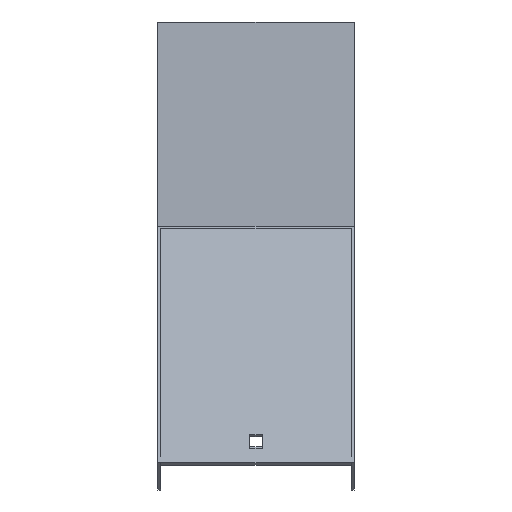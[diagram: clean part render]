
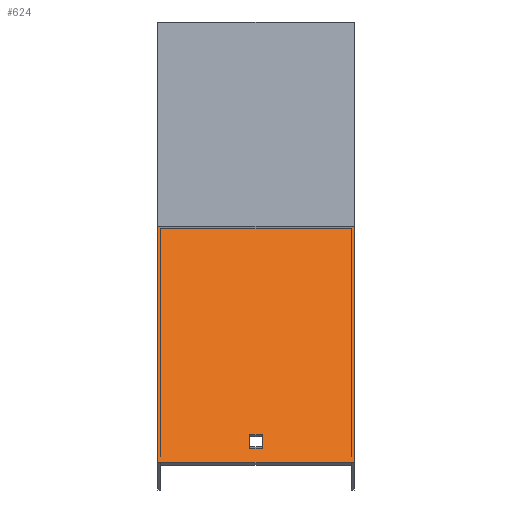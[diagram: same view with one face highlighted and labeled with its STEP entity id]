
A CAD part, top view. The second image highlights one B-rep face of the part: STEP entity #624.
In plain terms, the highlighted planar face has unit normal (0, 0.707, 0.707).
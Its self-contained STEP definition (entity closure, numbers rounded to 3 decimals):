
#3 = VERTEX_POINT ( 'NONE', #202 ) ;
#11 = ORIENTED_EDGE ( 'NONE', *, *, #607, .F. ) ;
#12 = EDGE_CURVE ( 'NONE', #381, #784, #653, .T. ) ;
#14 = CARTESIAN_POINT ( 'NONE',  ( 51.5, -87.517, 435.548 ) ) ;
#20 = CARTESIAN_POINT ( 'NONE',  ( 3.25, -203.468, 551.498 ) ) ;
#26 = VECTOR ( 'NONE', #771, 1000. ) ;
#37 = CARTESIAN_POINT ( 'NONE',  ( -3.25, -197.104, 545.134 ) ) ;
#38 = FACE_BOUND ( 'NONE', #470, .T. ) ;
#89 = VECTOR ( 'NONE', #501, 1000. ) ;
#108 = DIRECTION ( 'NONE',  ( 0., -0.707, -0.707 ) ) ;
#111 = EDGE_CURVE ( 'NONE', #784, #153, #563, .T. ) ;
#114 = LINE ( 'NONE', #386, #89 ) ;
#116 = ORIENTED_EDGE ( 'NONE', *, *, #12, .T. ) ;
#122 = VECTOR ( 'NONE', #458, 1000. ) ;
#130 = CARTESIAN_POINT ( 'NONE',  ( 51.5, -197.104, 545.134 ) ) ;
#137 = ORIENTED_EDGE ( 'NONE', *, *, #738, .T. ) ;
#152 = LINE ( 'NONE', #410, #701 ) ;
#153 = VERTEX_POINT ( 'NONE', #37 ) ;
#168 = EDGE_CURVE ( 'NONE', #403, #381, #114, .T. ) ;
#175 = EDGE_CURVE ( 'NONE', #349, #3, #258, .T. ) ;
#197 = CARTESIAN_POINT ( 'NONE',  ( 51.5, -203.468, 551.498 ) ) ;
#202 = CARTESIAN_POINT ( 'NONE',  ( -51.5, -87.517, 435.548 ) ) ;
#225 = VERTEX_POINT ( 'NONE', #657 ) ;
#226 = CARTESIAN_POINT ( 'NONE',  ( -3.25, -90.33, 438.361 ) ) ;
#232 = FACE_OUTER_BOUND ( 'NONE', #576, .T. ) ;
#235 = PLANE ( 'NONE',  #687 ) ;
#247 = DIRECTION ( 'NONE',  ( 0., 0.707, -0.707 ) ) ;
#258 = LINE ( 'NONE', #262, #26 ) ;
#260 = VECTOR ( 'NONE', #352, 1000. ) ;
#261 = ORIENTED_EDGE ( 'NONE', *, *, #168, .T. ) ;
#262 = CARTESIAN_POINT ( 'NONE',  ( 51.5, -87.517, 435.548 ) ) ;
#292 = ORIENTED_EDGE ( 'NONE', *, *, #175, .T. ) ;
#311 = VERTEX_POINT ( 'NONE', #680 ) ;
#333 = CARTESIAN_POINT ( 'NONE',  ( -51.5, -90.33, 438.361 ) ) ;
#349 = VERTEX_POINT ( 'NONE', #14 ) ;
#352 = DIRECTION ( 'NONE',  ( -1., 0., 0. ) ) ;
#357 = DIRECTION ( 'NONE',  ( 0., -0.707, 0.707 ) ) ;
#381 = VERTEX_POINT ( 'NONE', #20 ) ;
#386 = CARTESIAN_POINT ( 'NONE',  ( 3.25, -90.33, 438.361 ) ) ;
#403 = VERTEX_POINT ( 'NONE', #605 ) ;
#410 = CARTESIAN_POINT ( 'NONE',  ( 51.5, -90.33, 438.361 ) ) ;
#415 = EDGE_CURVE ( 'NONE', #3, #225, #806, .T. ) ;
#458 = DIRECTION ( 'NONE',  ( -1., 0., 0. ) ) ;
#459 = VECTOR ( 'NONE', #550, 1000. ) ;
#470 = EDGE_LOOP ( 'NONE', ( #137, #261, #116, #826 ) ) ;
#497 = LINE ( 'NONE', #627, #260 ) ;
#501 = DIRECTION ( 'NONE',  ( 0., -0.707, 0.707 ) ) ;
#512 = LINE ( 'NONE', #130, #718 ) ;
#529 = EDGE_CURVE ( 'NONE', #349, #311, #152, .T. ) ;
#550 = DIRECTION ( 'NONE',  ( 0., 0.707, -0.707 ) ) ;
#563 = LINE ( 'NONE', #226, #459 ) ;
#573 = ORIENTED_EDGE ( 'NONE', *, *, #529, .F. ) ;
#576 = EDGE_LOOP ( 'NONE', ( #690, #11, #573, #292 ) ) ;
#605 = CARTESIAN_POINT ( 'NONE',  ( 3.25, -197.104, 545.134 ) ) ;
#607 = EDGE_CURVE ( 'NONE', #311, #225, #497, .T. ) ;
#624 = ADVANCED_FACE ( 'NONE', ( #38, #232 ), #235, .F. ) ;
#627 = CARTESIAN_POINT ( 'NONE',  ( 51.5, -211.953, 559.984 ) ) ;
#653 = LINE ( 'NONE', #197, #122 ) ;
#657 = CARTESIAN_POINT ( 'NONE',  ( -51.5, -211.953, 559.984 ) ) ;
#666 = DIRECTION ( 'NONE',  ( 1., 0., 0. ) ) ;
#680 = CARTESIAN_POINT ( 'NONE',  ( 51.5, -211.953, 559.984 ) ) ;
#687 = AXIS2_PLACEMENT_3D ( 'NONE', #764, #108, #247 ) ;
#690 = ORIENTED_EDGE ( 'NONE', *, *, #415, .T. ) ;
#701 = VECTOR ( 'NONE', #357, 1000. ) ;
#718 = VECTOR ( 'NONE', #666, 1000. ) ;
#738 = EDGE_CURVE ( 'NONE', #153, #403, #512, .T. ) ;
#739 = DIRECTION ( 'NONE',  ( 0., -0.707, 0.707 ) ) ;
#764 = CARTESIAN_POINT ( 'NONE',  ( 51.5, -90.33, 438.361 ) ) ;
#771 = DIRECTION ( 'NONE',  ( -1., 0., 0. ) ) ;
#775 = CARTESIAN_POINT ( 'NONE',  ( -3.25, -203.468, 551.498 ) ) ;
#784 = VERTEX_POINT ( 'NONE', #775 ) ;
#806 = LINE ( 'NONE', #333, #852 ) ;
#826 = ORIENTED_EDGE ( 'NONE', *, *, #111, .T. ) ;
#852 = VECTOR ( 'NONE', #739, 1000. ) ;
